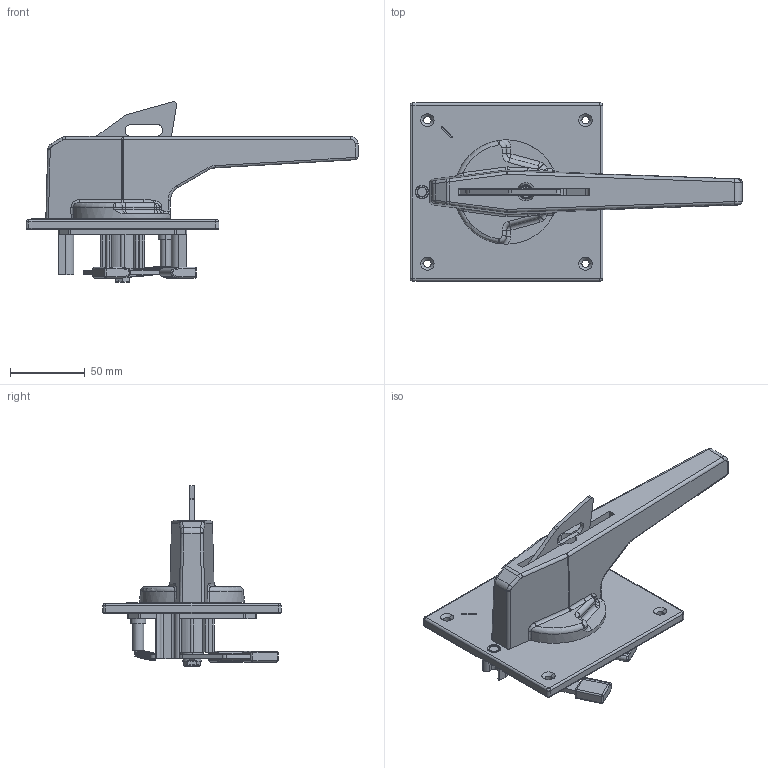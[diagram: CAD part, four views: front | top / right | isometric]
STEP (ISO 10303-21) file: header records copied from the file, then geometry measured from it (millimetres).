
FILE_DESCRIPTION (( 'STEP AP214' ), '1' );
FILE_NAME ('ﾐﾄﾏ.STEP', '2016-05-16T07:59:53', ( 'admin' ), ( '' ), 'SwSTEP 2.0', 'SolidWorks 2012', '' );
FILE_SCHEMA (( 'AUTOMOTIVE_DESIGN' ));
Length unit declared in the file: millimetre
Products named in the file (1): ﾐﾄﾏ
Bounding box: 222.44 x 119.43 x 121.08 mm (x, y, z)
Volume: 262310.9 mm3; surface area: 115940.7 mm2
Topology: 16 solids, 16 shells, 1121 faces, 2792 edges, 1713 vertices
Faces by surface type: cylinder 514, plane 353, torus 161, bspline 46, cone 26, sphere 21
Entity records: 61324 total; most frequent: CARTESIAN_POINT 21837, DIRECTION 5980, ORIENTED_EDGE 5540, EDGE_CURVE 2770, AXIS2_PLACEMENT_3D 2312, VERTEX_POINT 1711, LINE 1356, VECTOR 1356
